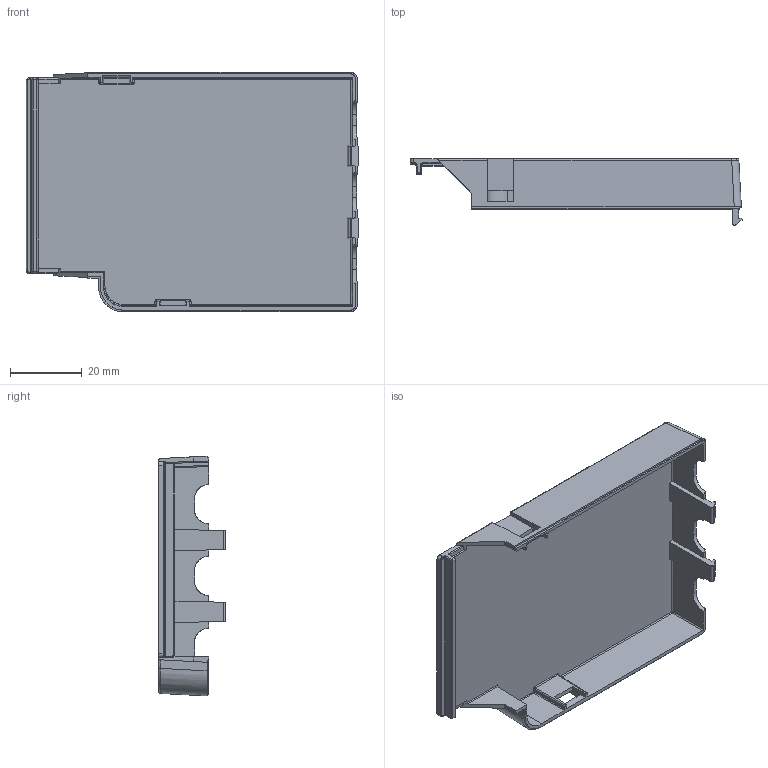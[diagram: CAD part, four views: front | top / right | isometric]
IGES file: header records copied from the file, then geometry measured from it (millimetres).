
Start section: SolidWorks IGES file using analytic representation for surfaces
Global section: file name: C:\Users\vuorinen_kari\Desktop\prj\P00010_LC_HYBRIDI\vedonpoistaja\D007807.IGS; native system: SolidWorks 2014; preprocessor: SolidWorks 2014; author: vuorinen_kari; date: 180404.101627; units: millimetre
Bounding box: 92.75 x 18.6 x 67 mm (x, y, z)
Surface area: 17993.1 mm2 (no closed solid volume)
Topology: 0 solids, 0 shells, 224 faces, 1838 edges, 1836 vertices
Faces by surface type: bspline 132, revolution 92
